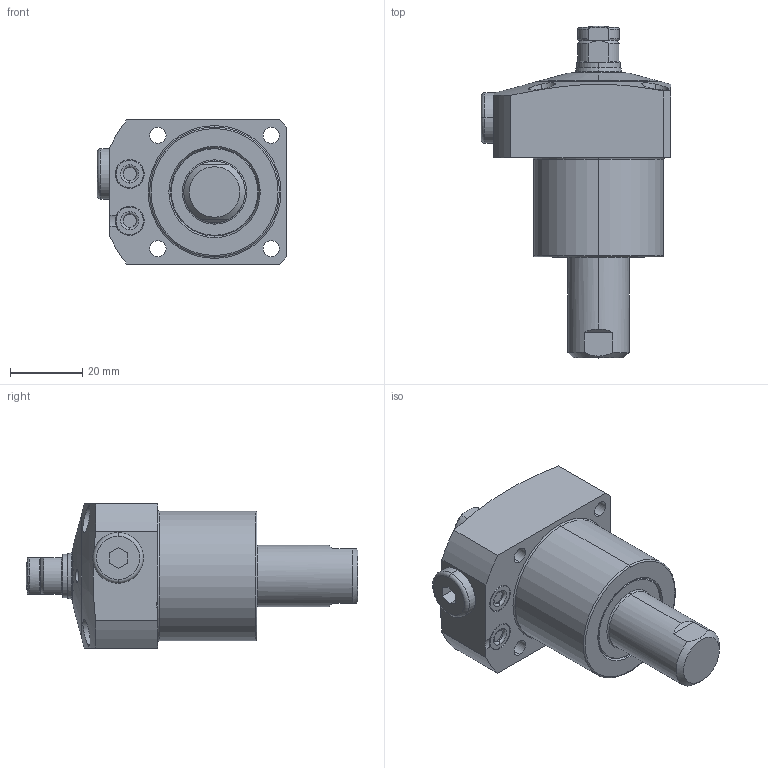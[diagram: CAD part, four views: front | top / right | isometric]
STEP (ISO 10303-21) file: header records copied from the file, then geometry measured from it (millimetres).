
FILE_DESCRIPTION(/* description */ (''),/* implementation_level */ '2;1');
FILE_NAME(/* name */ 'KFSC36-Q.stp',/* time_stamp */ '2026-02-04T15:24:14+08:00',/* author */ (''),/* organization */ (''),/* preprocessor_version */ 'ST-DEVELOPER v16.7',/* originating_system */ 'SIEMENS PLM Software NX 12.0',/* authorisation */ '');
FILE_SCHEMA (('AUTOMOTIVE_DESIGN { 1 0 10303 214 3 1 1 1 }'));
Length unit declared in the file: millimetre
Products named in the file (8): XLD-M8_Oring; XLD-M8_contactbolt; KFSC36-Q-02; P5-1; KFSC36-Q-01; KFSC36-Q-04; KFSC36-Q-03; LC0363-C-Q_step
Assembly tree (8 placements, depth 3):
  LC0363-C-Q_step
    KFSC36-Q-04
    KFSC36-Q-01
    KFSC36-Q-03
      XLD-M8_contactbolt
      XLD-M8_Oring
    P5-1  x2
    KFSC36-Q-02
Bounding box: 52.5 x 92 x 40 mm (x, y, z)
Volume: 73933.1 mm3; surface area: 17130.7 mm2
Topology: 7 solids, 7 shells, 236 faces, 520 edges, 316 vertices
Faces by surface type: cylinder 75, torus 62, plane 58, cone 39, sphere 2
Entity records: 6970 total; most frequent: CARTESIAN_POINT 1608, DIRECTION 1193, ORIENTED_EDGE 984, AXIS2_PLACEMENT_3D 516, EDGE_CURVE 492, VERTEX_POINT 302, CIRCLE 283, EDGE_LOOP 258
